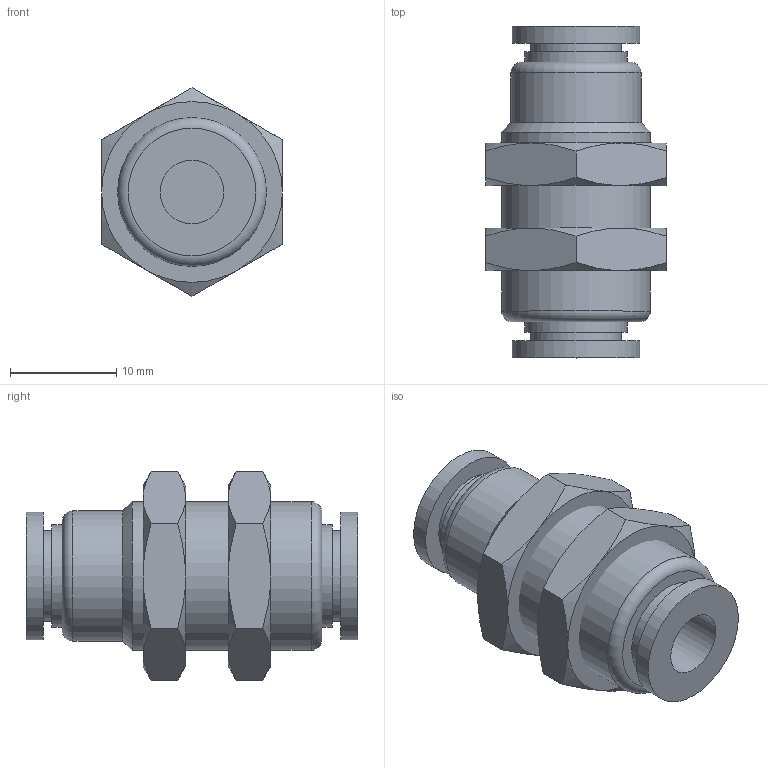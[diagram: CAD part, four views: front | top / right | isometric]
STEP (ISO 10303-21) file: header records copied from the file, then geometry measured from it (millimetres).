
FILE_DESCRIPTION(/* description */ (''),/* implementation_level */ '2;1');
FILE_NAME(/* name */ 'S:\UTecnico\ArchivioUT\Speciali Clienti\Speciali KONFIT\DISEGNI 3D\RP\RP 60\RP600006.stp',/* time_stamp */ '2015-01-19T17:47:47+01:00',/* author */ ('UT5'),/* organization */ (''),/* preprocessor_version */ 'ST-DEVELOPER v15.2',/* originating_system */ 'Autodesk Inventor 2014',/* authorisation */ '');
FILE_SCHEMA (('AUTOMOTIVE_DESIGN { 1 0 10303 214 3 1 1 }'));
Length unit declared in the file: millimetre
Products named in the file (1): RP600006
Bounding box: 17 x 31.2 x 19.63 mm (x, y, z)
Volume: 5213.4 mm3; surface area: 3695.9 mm2
Topology: 3 solids, 3 shells, 60 faces, 117 edges, 69 vertices
Faces by surface type: cone 25, plane 24, cylinder 9, torus 2
Full cylindrical faces by diameter (mm): 6 x1, 8.5 x2, 9.6 x2, 12 x2, 12.25 x1, 14 x1
Entity records: 1431 total; most frequent: CARTESIAN_POINT 329, DIRECTION 222, ORIENTED_EDGE 208, AXIS2_PLACEMENT_3D 105, EDGE_CURVE 104, EDGE_LOOP 80, VERTEX_POINT 68, ADVANCED_FACE 60
